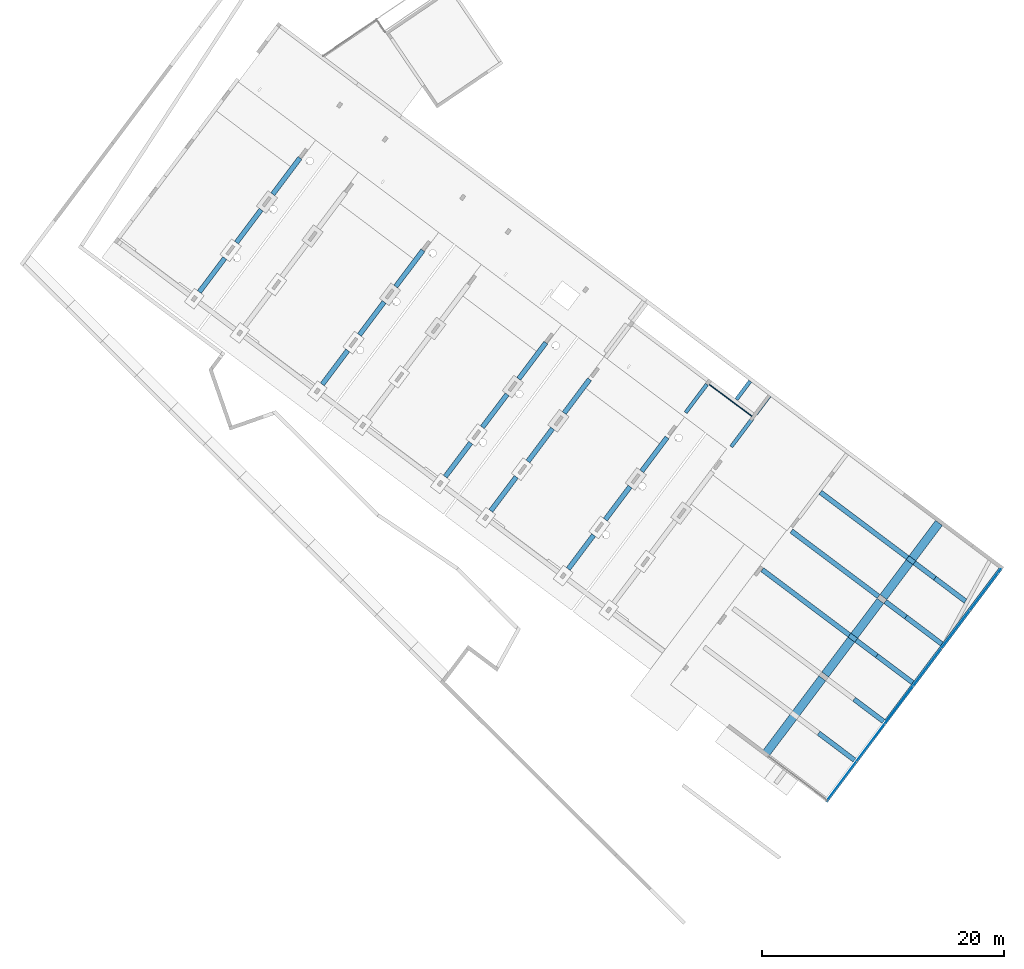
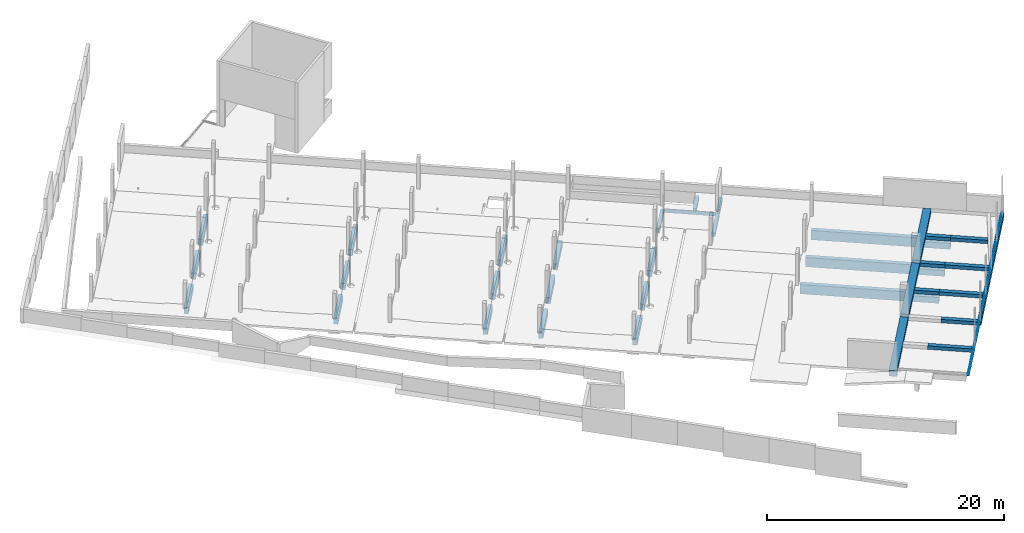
# One storey, part 18 of 24: 21 beams.
"""IFC2X3 building model written with IfcOpenShell, lengths in metres."""

from ifc_helpers import new_model, entity, si_unit, converted_unit, derived_unit, direction, frame, frame_2d, origin, place, context, subcontext, project, spatial, polyline, rectangle, outline, extrude, clip, halfspace, source, transform, mapped, material, material_list, type_object, type_shapes, element, save


model = new_model("IFC2X3")

# Units and contexts
model_context = context("Model", 3, precision=1e-05, world=origin(), true_north=direction((6.123031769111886e-17, 1.0)))
body_context = subcontext(model_context, "Body", "Model", "MODEL_VIEW")
ifc_project = project(units=[si_unit("LENGTHUNIT", "METRE"), si_unit("AREAUNIT", "SQUARE_METRE"), si_unit("VOLUMEUNIT", "CUBIC_METRE"), converted_unit("PLANEANGLEUNIT", "DEGREE", entity("IfcRatioMeasure", 0.017453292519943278), si_unit("PLANEANGLEUNIT", "RADIAN"), dimensions=[0, 0, 0, 0, 0, 0, 0]), si_unit("MASSUNIT", "GRAM", prefix="KILO"), derived_unit("MASSDENSITYUNIT", [(si_unit("MASSUNIT", "GRAM", prefix="KILO"), 1), (si_unit("LENGTHUNIT", "METRE"), -3)]), derived_unit("IONCONCENTRATIONUNIT", [(si_unit("MASSUNIT", "GRAM", prefix="KILO"), 1), (si_unit("LENGTHUNIT", "METRE"), -3)]), derived_unit("MOMENTOFINERTIAUNIT", [(si_unit("LENGTHUNIT", "METRE"), 4)]), si_unit("TIMEUNIT", "SECOND"), si_unit("FREQUENCYUNIT", "HERTZ"), si_unit("THERMODYNAMICTEMPERATUREUNIT", "DEGREE_CELSIUS"), derived_unit("THERMALTRANSMITTANCEUNIT", [(si_unit("MASSUNIT", "GRAM", prefix="KILO"), 1), (si_unit("THERMODYNAMICTEMPERATUREUNIT", "KELVIN"), -1), (si_unit("TIMEUNIT", "SECOND"), -3)]), derived_unit("THERMALCONDUCTANCEUNIT", [(si_unit("MASSUNIT", "GRAM", prefix="KILO"), 1), (si_unit("THERMODYNAMICTEMPERATUREUNIT", "KELVIN"), -1), (si_unit("TIMEUNIT", "SECOND"), -3), (si_unit("LENGTHUNIT", "METRE"), 1)]), derived_unit("VOLUMETRICFLOWRATEUNIT", [(si_unit("LENGTHUNIT", "METRE"), 3), (si_unit("TIMEUNIT", "SECOND"), -1)]), derived_unit("MASSFLOWRATEUNIT", [(si_unit("MASSUNIT", "GRAM", prefix="KILO"), 1), (si_unit("TIMEUNIT", "SECOND"), -1)]), derived_unit("ROTATIONALFREQUENCYUNIT", [(si_unit("TIMEUNIT", "SECOND"), -1)]), si_unit("ELECTRICCURRENTUNIT", "AMPERE"), si_unit("ELECTRICVOLTAGEUNIT", "VOLT"), si_unit("POWERUNIT", "WATT"), si_unit("FORCEUNIT", "NEWTON", prefix="KILO"), si_unit("ILLUMINANCEUNIT", "LUX"), si_unit("LUMINOUSFLUXUNIT", "LUMEN"), si_unit("LUMINOUSINTENSITYUNIT", "CANDELA"), derived_unit("USERDEFINED", [(si_unit("MASSUNIT", "GRAM", prefix="KILO"), -1), (si_unit("LENGTHUNIT", "METRE"), -2), (si_unit("TIMEUNIT", "SECOND"), 3), (si_unit("LUMINOUSFLUXUNIT", "LUMEN"), 1)]), derived_unit("USERDEFINED", [(si_unit("MASSUNIT", "GRAM", prefix="KILO"), 1), (si_unit("TIMEUNIT", "SECOND"), -3), (si_unit("LENGTHUNIT", "METRE"), 3), (si_unit("ELECTRICCURRENTUNIT", "AMPERE"), -2)]), derived_unit("SOUNDPOWERUNIT", [(si_unit("MASSUNIT", "GRAM", prefix="KILO"), 1), (si_unit("TIMEUNIT", "SECOND"), -3), (si_unit("LENGTHUNIT", "METRE"), 2)]), derived_unit("SOUNDPRESSUREUNIT", [(si_unit("MASSUNIT", "GRAM", prefix="KILO"), 1), (si_unit("LENGTHUNIT", "METRE"), -1), (si_unit("TIMEUNIT", "SECOND"), -2)]), derived_unit("LINEARVELOCITYUNIT", [(si_unit("LENGTHUNIT", "METRE"), 1), (si_unit("TIMEUNIT", "SECOND"), -1)]), si_unit("PRESSUREUNIT", "PASCAL"), derived_unit("USERDEFINED", [(si_unit("MASSUNIT", "GRAM", prefix="KILO"), 1), (si_unit("LENGTHUNIT", "METRE"), -2), (si_unit("TIMEUNIT", "SECOND"), -2)]), derived_unit("LINEARFORCEUNIT", [(si_unit("MASSUNIT", "GRAM", prefix="KILO"), 1), (si_unit("TIMEUNIT", "SECOND"), -2)]), derived_unit("PLANARFORCEUNIT", [(si_unit("MASSUNIT", "GRAM", prefix="KILO"), 1), (si_unit("LENGTHUNIT", "METRE"), -1), (si_unit("TIMEUNIT", "SECOND"), -2)]), derived_unit("SPECIFICHEATCAPACITYUNIT", [(si_unit("THERMODYNAMICTEMPERATUREUNIT", "KELVIN"), -1), (si_unit("LENGTHUNIT", "METRE"), 2), (si_unit("TIMEUNIT", "SECOND"), -2)]), derived_unit("HEATINGVALUEUNIT", [(si_unit("LENGTHUNIT", "METRE"), 2), (si_unit("TIMEUNIT", "SECOND"), -2)]), derived_unit("VAPORPERMEABILITYUNIT", [(si_unit("LENGTHUNIT", "METRE"), -1), (si_unit("TIMEUNIT", "SECOND"), 1)]), derived_unit("DYNAMICVISCOSITYUNIT", [(si_unit("MASSUNIT", "GRAM", prefix="KILO"), 1), (si_unit("TIMEUNIT", "SECOND"), -1), (si_unit("LENGTHUNIT", "METRE"), -1)]), derived_unit("THERMALEXPANSIONCOEFFICIENTUNIT", [(si_unit("THERMODYNAMICTEMPERATUREUNIT", "KELVIN"), -1)]), derived_unit("MODULUSOFELASTICITYUNIT", [(si_unit("MASSUNIT", "GRAM", prefix="KILO"), 1), (si_unit("LENGTHUNIT", "METRE"), -1), (si_unit("TIMEUNIT", "SECOND"), -2)]), derived_unit("ISOTHERMALMOISTURECAPACITYUNIT", [(si_unit("LENGTHUNIT", "METRE"), 3), (si_unit("MASSUNIT", "GRAM", prefix="KILO"), -1)]), derived_unit("MOISTUREDIFFUSIVITYUNIT", [(si_unit("TIMEUNIT", "SECOND"), -1), (si_unit("LENGTHUNIT", "METRE"), 2)])], contexts=[model_context])

# Site, building, storey
site_placement = place(None, origin())
site = spatial("IfcSite", under=ifc_project, at=site_placement, Name="Default", CompositionType="ELEMENT")
building_placement = place(site_placement, frame((0.0, 0.0, 235.0), z_axis=(0.0, 0.0, 1.0), x_axis=(-0.7996477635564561, 0.6004693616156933, 0.0)))
building = spatial("IfcBuilding", under=site, at=building_placement, CompositionType="ELEMENT")
storey_placement = place(building_placement, origin())
storey = spatial("IfcBuildingStorey", under=building, at=storey_placement, Name="P0- Escola", CompositionType="ELEMENT", Elevation=0.0)

# Beams
ifc_material_1 = material(Name="_Formigó- T1- STR")
beam_type_1 = type_object("IfcBeamType", Name="STR- V- Formigó- Rectangular- T1:30x59 cm", PredefinedType="NOTDEFINED")
beam_1_placement = place(storey_placement, frame((-0.04416658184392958, -42.190191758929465, -0.2), z_axis=(0.0, 0.0, 1.0), x_axis=(0.0, 1.0, 0.0)))
element("IfcBeam", 1, at=beam_1_placement, inside=storey, type_object=beam_type_1, material=ifc_material_1, Name="STR- V- Formigó- Rectangular- T1:30x59 cm", ObjectType="STR- V- Formigó- Rectangular- T1:30x59 cm", context=body_context, shape_type="SweptSolid", body=[
    extrude(rectangle(XDim=0.5899999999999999, YDim=0.3000000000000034, at=frame_2d((2.7755575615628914e-17, -2.7755575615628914e-17), x_axis=(1.0, 0.0))), frame((-0.1500000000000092, 0.0, -0.29500000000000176), z_axis=(1.0, 0.0, 0.0), x_axis=(0.0, 0.0, -1.0)), (0.0, 0.0, 1.0), 16.000202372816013),
])
beam_type_2 = type_object("IfcBeamType", Name="STR- V- Formigó- Rectangular- T1:70x59 cm", PredefinedType="BEAM", material=ifc_material_1)
shared_shape_1 = source(origin(), body_context, "Body", "SweptSolid", [
    extrude(outline(polyline([(-4.913636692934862, 0.11545454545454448), (-4.913636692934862, -0.23454545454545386), (-1.3136366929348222, -0.23454545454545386), (-0.9136366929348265, -0.23454545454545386), (2.736363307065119, -0.23454545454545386), (3.0363651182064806, -0.23454545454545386), (3.0363651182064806, 0.35545454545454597), (2.7363633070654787, 0.35545454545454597), (2.7363633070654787, 0.11545454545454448), (-0.9136366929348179, 0.11545454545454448), (-1.3136366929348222, 0.11545454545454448), (-4.913636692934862, 0.11545454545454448)])), frame((0.0, 20.963636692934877, 0.35545454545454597), z_axis=(-1.0, 0.0, 0.0), x_axis=(0.0, 1.0, 0.0)), (0.0, 0.0, -1.0), 0.7000000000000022),
    extrude(rectangle(XDim=0.3499999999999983, YDim=7.650000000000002, at=frame_2d((-4.163336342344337e-17, 0.01250000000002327), x_axis=(1.0, 0.0))), frame((0.0, 3.8375000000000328, 0.4150000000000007), z_axis=(1.0, 0.0, 0.0), x_axis=(0.0, 0.0, 1.0)), (0.0, 0.0, 1.0), 0.7000000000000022),
    extrude(rectangle(XDim=0.3499999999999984, YDim=7.6000000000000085, at=frame_2d((2.8199664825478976e-14, -6.938893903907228e-17), x_axis=(0.0, 1.0))), frame((0.0, 11.850000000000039, 0.4150000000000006), z_axis=(1.0, 0.0, 0.0), x_axis=(0.0, -1.0, 0.0)), (0.0, 0.0, 1.0), 0.7000000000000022),
])
type_shapes(beam_type_2, [shared_shape_1])
beam_2_placement = place(storey_placement, frame((5.945147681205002, -42.040191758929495, -0.7900000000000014)))
element("IfcBeam", 2, at=beam_2_placement, inside=storey, type_object=beam_type_2, material=ifc_material_1, Name="STR- V- Formigó- Rectangular- T1:70x59 cm", ObjectType="STR- V- Formigó- Rectangular- T1:70x59 cm", context=body_context, shape_type="MappedRepresentation", body=[
    mapped(shared_shape_1, transform((0.0, 0.0, 0.0), scale=1.0)),
])
beam_type_3 = type_object("IfcBeamType", Name="STR- V- Formigó- Rectangular- T1:30x70 cm", PredefinedType="BEAM", material=ifc_material_1)
shared_shape_2 = source(origin(), body_context, "Body", "SweptSolid", [
    extrude(rectangle(XDim=0.3800000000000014, YDim=0.30000000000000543, at=frame_2d((2.1649348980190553e-15, 2.7755575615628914e-17), x_axis=(0.0, 1.0))), frame((23.79514768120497, -39.69019175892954, -0.7100000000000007), z_axis=(0.0, 1.0, 0.0), x_axis=(-1.0, 0.0, 0.0)), (0.0, 0.0, 1.0), 2.925000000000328),
    extrude(rectangle(XDim=0.3800000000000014, YDim=0.30000000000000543, at=frame_2d((-2.1649348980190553e-15, 0.0), x_axis=(0.0, 1.0))), frame((23.79514768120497, -42.03419175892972, -0.7100000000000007), z_axis=(0.0, 1.0, 0.0), x_axis=(-1.0, 0.0, 0.0)), (0.0, 0.0, 1.0), 1.8940000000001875),
])
type_shapes(beam_type_3, [shared_shape_2])
beam_3_placement = place(storey_placement, origin())
element("IfcBeam", 3, at=beam_3_placement, inside=storey, type_object=beam_type_3, material=ifc_material_1, Name="STR- V- Formigó- Rectangular- T1:30x70 cm", ObjectType="STR- V- Formigó- Rectangular- T1:30x70 cm", context=body_context, shape_type="MappedRepresentation", body=[
    mapped(shared_shape_2, transform((0.0, 0.0, 0.0), scale=1.0)),
])
beam_4_placement = place(storey_placement, frame((28.495147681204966, -39.91519175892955, -0.19999999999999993), z_axis=(0.0, 0.0, 1.0), x_axis=(0.0, 1.0, 0.0)))
element("IfcBeam", 4, at=beam_4_placement, inside=storey, type_object=beam_type_3, material=ifc_material_1, Name="STR- V- Formigó- Rectangular- T1:30x70 cm", ObjectType="STR- V- Formigó- Rectangular- T1:30x70 cm", context=body_context, shape_type="SweptSolid", body=[
    extrude(rectangle(XDim=0.38000000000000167, YDim=0.30000000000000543, at=frame_2d((-2.7755575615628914e-17, -2.1649348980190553e-15), x_axis=(1.0, 0.0))), frame((0.22500000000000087, 0.0, -0.5100000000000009), z_axis=(1.0, 0.0, 0.0), x_axis=(0.0, 0.0, -1.0)), (0.0, 0.0, 1.0), 2.925000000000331),
])
beam_5_placement = place(storey_placement, frame((25.795147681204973, -42.18419175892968, -0.2), z_axis=(0.0, 0.0, 1.0), x_axis=(0.0, 1.0, 0.0)))
element("IfcBeam", 5, at=beam_5_placement, inside=storey, type_object=beam_type_3, material=ifc_material_1, Name="STR- V- Formigó- Rectangular- T1:30x70 cm", ObjectType="STR- V- Formigó- Rectangular- T1:30x70 cm", context=body_context, shape_type="SweptSolid", body=[
    extrude(rectangle(XDim=0.38000000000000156, YDim=0.30000000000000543, at=frame_2d((4.163336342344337e-17, 2.1649348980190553e-15), x_axis=(1.0, 0.0))), frame((0.14999999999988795, 0.0, -0.5100000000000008), z_axis=(1.0, 0.0, 0.0), x_axis=(0.0, 0.0, -1.0)), (0.0, 0.0, 1.0), 1.8940000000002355),
])
beam_6_placement = place(storey_placement, frame((23.795147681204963, -39.91519175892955, -0.2)))
element("IfcBeam", 6, at=beam_6_placement, inside=storey, type_object=beam_type_3, material=ifc_material_1, Name="STR- V- Formigó- Rectangular- T1:30x70 cm", ObjectType="STR- V- Formigó- Rectangular- T1:30x70 cm", context=body_context, shape_type="SweptSolid", body=[
    extrude(rectangle(XDim=0.38000000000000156, YDim=0.07500000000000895, at=frame_2d((4.163336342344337e-17, -4.3298697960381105e-15), x_axis=(1.0, 0.0))), frame((0.14999999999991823, 0.11250000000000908, -0.5100000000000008), z_axis=(1.0, 0.0, 0.0), x_axis=(0.0, 0.0, -1.0)), (0.0, 0.0, 1.0), 4.400000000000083),
])
beam_type_4 = type_object("IfcBeamType", Name="STR- V- Formigó- Rectangular- T1:40x59 cm", PredefinedType="NOTDEFINED")
beam_7_placement = place(storey_placement, frame((5.945147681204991, -26.190191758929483, -0.19999999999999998), z_axis=(0.0, 0.0, 1.0), x_axis=(-1.0, 0.0, 0.0)))
element("IfcBeam", 7, at=beam_7_placement, inside=storey, type_object=beam_type_4, material=ifc_material_1, Name="STR- V- Formigó- Rectangular- T1:40x59 cm", ObjectType="STR- V- Formigó- Rectangular- T1:40x59 cm", context=body_context, shape_type="SweptSolid", body=[
    extrude(rectangle(XDim=0.34999999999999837, YDim=0.40000000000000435, at=frame_2d((2.7755575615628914e-17, 8.659739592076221e-15), x_axis=(1.0, 0.0))), frame((2.780400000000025, 0.0, -0.17500000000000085), z_axis=(1.0, 0.0, 0.0), x_axis=(0.0, 0.0, -1.0)), (0.0, 0.0, 1.0), 3.0589142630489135),
])
beam_8_placement = place(storey_placement, frame((6.295147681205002, -22.190191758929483, -0.2), z_axis=(0.0, 0.0, 1.0), x_axis=(-1.0, 0.0, 0.0)))
element("IfcBeam", 8, at=beam_8_placement, inside=storey, type_object=beam_type_4, material=ifc_material_1, Name="STR- V- Formigó- Rectangular- T1:40x59 cm", ObjectType="STR- V- Formigó- Rectangular- T1:40x59 cm", context=body_context, shape_type="SweptSolid", body=[
    extrude(rectangle(XDim=0.3499999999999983, YDim=0.40000000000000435, at=frame_2d((4.163336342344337e-17, 8.659739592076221e-15), x_axis=(1.0, 0.0))), frame((2.4754000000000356, 0.0, -0.17500000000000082), z_axis=(1.0, 0.0, 0.0), x_axis=(0.0, 0.0, -1.0)), (0.0, 0.0, 1.0), 3.7139142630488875),
])
beam_9_placement = place(storey_placement, frame((6.295147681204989, -30.190191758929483, -0.2), z_axis=(0.0, 0.0, 1.0), x_axis=(-1.0, 0.0, 0.0)))
element("IfcBeam", 9, at=beam_9_placement, inside=storey, type_object=beam_type_4, material=ifc_material_1, Name="STR- V- Formigó- Rectangular- T1:40x59 cm", ObjectType="STR- V- Formigó- Rectangular- T1:40x59 cm", context=body_context, shape_type="SweptSolid", body=[
    extrude(rectangle(XDim=0.3499999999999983, YDim=0.40000000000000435, at=frame_2d((4.163336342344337e-17, 4.3298697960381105e-15), x_axis=(1.0, 0.0))), frame((2.4750500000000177, 0.0, -0.17500000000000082), z_axis=(1.0, 0.0, 0.0), x_axis=(0.0, 0.0, -1.0)), (0.0, 0.0, 1.0), 3.71426426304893),
])
beam_10_placement = place(storey_placement, frame((5.945147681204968, -34.19019175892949, -0.19999999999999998), z_axis=(0.0, 0.0, 1.0), x_axis=(-1.0, 0.0, 0.0)))
element("IfcBeam", 10, at=beam_10_placement, inside=storey, type_object=beam_type_4, material=ifc_material_1, Name="STR- V- Formigó- Rectangular- T1:40x59 cm", ObjectType="STR- V- Formigó- Rectangular- T1:40x59 cm", context=body_context, shape_type="SweptSolid", body=[
    extrude(rectangle(XDim=0.34999999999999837, YDim=0.40000000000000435, at=frame_2d((2.7755575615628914e-17, 1.2989609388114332e-14), x_axis=(1.0, 0.0))), frame((2.125400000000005, 0.0, -0.17500000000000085), z_axis=(1.0, 0.0, 0.0), x_axis=(0.0, 0.0, -1.0)), (0.0, 0.0, 1.0), 3.7139142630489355),
])
beam_11_placement = place(storey_placement, frame((6.295147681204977, -38.19019175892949, -0.2), z_axis=(0.0, 0.0, 1.0), x_axis=(-1.0, 0.0, 0.0)))
element("IfcBeam", 11, at=beam_11_placement, inside=storey, type_object=beam_type_4, material=ifc_material_1, Name="STR- V- Formigó- Rectangular- T1:40x59 cm", ObjectType="STR- V- Formigó- Rectangular- T1:40x59 cm", context=body_context, shape_type="SweptSolid", body=[
    clip(extrude(rectangle(XDim=0.3499999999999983, YDim=0.40000000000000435, at=frame_2d((4.163336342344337e-17, 1.0824674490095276e-14), x_axis=(1.0, 0.0))), frame((2.475400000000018, 0.0, -0.17500000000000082), z_axis=(1.0, 0.0, 0.0), x_axis=(0.0, 0.0, -1.0)), (0.0, 0.0, 1.0), 3.1877565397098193), halfspace(frame((5.892409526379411, -1.7685615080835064, 0.0), z_axis=(0.9894874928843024, 0.14461846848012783, 0.0), x_axis=(-0.14461846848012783, 0.9894874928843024, 0.0)), False)),
])
beam_type_5 = type_object("IfcBeamType", Name="STR- V- Formigó- Rectangular- T1:40x120 cm", PredefinedType="BEAM", material=ifc_material_1)
shared_shape_3 = source(origin(), body_context, "Body", "SweptSolid", [
    extrude(rectangle(XDim=0.34999999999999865, YDim=0.4, at=frame_2d((0.0, 2.1649348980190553e-15), x_axis=(1.0, 0.0))), frame((0.0, 0.20000000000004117, 1.0250000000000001), z_axis=(1.0, 0.0, 0.0), x_axis=(0.0, 0.0, -1.0)), (0.0, 0.0, 1.0), 2.1250500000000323),
    extrude(outline(polyline([(0.07428571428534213, -1.6714285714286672), (0.4242857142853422, -1.6714285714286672), (0.42428571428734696, 7.328571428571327), (-0.5357142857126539, 7.328571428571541), (-0.5357142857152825, -4.471428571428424), (0.07428571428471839, -4.471428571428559), (0.0742857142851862, -2.371428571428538), (0.07428571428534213, -1.6714285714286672)])), frame((4.496478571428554, 0.0, 0.5357142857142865), z_axis=(0.0, 1.0, 0.0), x_axis=(0.0, 0.0, 1.0)), (0.0, 0.0, 1.0), 0.40000000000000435),
])
type_shapes(beam_type_5, [shared_shape_3])
beam_12_placement = place(storey_placement, frame((3.820097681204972, -30.390191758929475, -1.400000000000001)))
element("IfcBeam", 12, at=beam_12_placement, inside=storey, type_object=beam_type_5, material=ifc_material_1, Name="STR- V- Formigó- Rectangular- T1:40x120 cm", ObjectType="STR- V- Formigó- Rectangular- T1:40x120 cm", context=body_context, shape_type="MappedRepresentation", body=[
    mapped(shared_shape_3, transform((0.0, 0.0, 0.0), scale=1.0)),
])
beam_type_6 = type_object("IfcBeamType", Name="STR- V- Formigó- Rectangular- T1:40x120 cm", PredefinedType="BEAM", material=ifc_material_1)
shared_shape_4 = source(origin(), body_context, "Body", "SweptSolid", [
    extrude(outline(polyline([(0.03499999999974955, -1.4625000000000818), (0.27499999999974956, -1.4625000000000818), (0.3849999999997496, -1.4625000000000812), (0.38500000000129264, 7.537499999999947), (-0.5749999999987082, 7.537500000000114), (-0.5750000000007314, -4.262499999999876), (0.03499999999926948, -4.26249999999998), (0.034999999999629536, -2.162499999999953), (0.03499999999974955, -1.4625000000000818)])), frame((4.287899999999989, 0.0, 0.5750000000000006), z_axis=(0.0, 1.0, 0.0), x_axis=(0.0, 0.0, 1.0)), (0.0, 0.0, 1.0), 0.40000000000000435),
    extrude(rectangle(XDim=0.34999999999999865, YDim=0.4, at=frame_2d((0.0, -2.1649348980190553e-15), x_axis=(1.0, 0.0))), frame((0.0, 0.20000000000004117, 1.0250000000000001), z_axis=(1.0, 0.0, 0.0), x_axis=(0.0, 0.0, -1.0)), (0.0, 0.0, 1.0), 2.125400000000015),
])
type_shapes(beam_type_6, [shared_shape_4])
beam_13_placement = place(storey_placement, frame((3.8197476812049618, -34.390191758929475, -1.400000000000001)))
element("IfcBeam", 13, at=beam_13_placement, inside=storey, type_object=beam_type_6, material=ifc_material_1, Name="STR- V- Formigó- Rectangular- T1:40x120 cm", ObjectType="STR- V- Formigó- Rectangular- T1:40x120 cm", context=body_context, shape_type="MappedRepresentation", body=[
    mapped(shared_shape_4, transform((0.0, 0.0, 0.0), scale=1.0)),
])
beam_type_7 = type_object("IfcBeamType", Name="STR- V- Formigó- Rectangular- T1:40x120 cm", PredefinedType="BEAM", material=ifc_material_1)
shared_shape_5 = source(origin(), body_context, "Body", "SweptSolid", [
    extrude(outline(polyline([(0.07428571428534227, -1.6714285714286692), (0.42428571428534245, -1.6714285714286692), (0.42428571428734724, 7.328571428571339), (-0.5357142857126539, 7.3285714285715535), (-0.5357142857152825, -4.471428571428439), (0.07428571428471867, -4.471428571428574), (0.07428571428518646, -2.3714285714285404), (0.07428571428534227, -1.6714285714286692)])), frame((4.49682857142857, 0.0, 0.5357142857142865), z_axis=(0.0, 1.0, 0.0), x_axis=(0.0, 0.0, 1.0)), (0.0, 0.0, 1.0), 0.40000000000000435),
    extrude(rectangle(XDim=0.3499999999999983, YDim=0.4, at=frame_2d((6.938893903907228e-17, 2.1649348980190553e-15), x_axis=(1.0, 0.0))), frame((0.0, 0.20000000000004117, 1.0250000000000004), z_axis=(1.0, 0.0, 0.0), x_axis=(0.0, 0.0, -1.0)), (0.0, 0.0, 1.0), 2.1254000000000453),
])
type_shapes(beam_type_7, [shared_shape_5])
beam_14_placement = place(storey_placement, frame((3.8197476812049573, -38.390191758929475, -1.4000000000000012)))
element("IfcBeam", 14, at=beam_14_placement, inside=storey, type_object=beam_type_7, material=ifc_material_1, Name="STR- V- Formigó- Rectangular- T1:40x120 cm", ObjectType="STR- V- Formigó- Rectangular- T1:40x120 cm", context=body_context, shape_type="MappedRepresentation", body=[
    mapped(shared_shape_5, transform((0.0, 0.0, 0.0), scale=1.0)),
])
ifc_material_2 = material(Name="_Formigó Pobre- T1- STR")
ifc_material_list = material_list([ifc_material_1, ifc_material_2])
beam_type_8 = type_object("IfcBeamType", Name="STR- R- Formigó- Rectangular- T1:40x60 cm", PredefinedType="BEAM", material=ifc_material_1)
shared_shape_6 = source(origin(), body_context, "Body", "SweptSolid", [
    extrude(rectangle(XDim=0.6000000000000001, YDim=0.40000000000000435, at=frame_2d((4.3298697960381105e-15, 5.551115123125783e-17), x_axis=(0.0, 1.0))), frame((36.495147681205, -30.715191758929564, -0.8700000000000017), z_axis=(0.0, -1.0, 0.0), x_axis=(-1.0, 0.0, 0.0)), (0.0, 0.0, 1.0), 3.487700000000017),
    extrude(rectangle(XDim=0.6000000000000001, YDim=0.40000000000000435, at=frame_2d((4.3298697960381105e-15, 5.551115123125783e-17), x_axis=(0.0, 1.0))), frame((36.495147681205, -20.615191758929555, -0.8700000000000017), z_axis=(0.0, -1.0, 0.0), x_axis=(-1.0, 0.0, 0.0)), (0.0, 0.0, 1.0), 3.499999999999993),
    extrude(rectangle(XDim=0.6000000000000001, YDim=0.40000000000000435, at=frame_2d((4.3298697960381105e-15, 5.551115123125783e-17), x_axis=(0.0, 1.0))), frame((36.495147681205, -25.715191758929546, -0.8700000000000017), z_axis=(0.0, -1.0, 0.0), x_axis=(-1.0, 0.0, 0.0)), (0.0, 0.0, 1.0), 3.40000000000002),
    extrude(rectangle(XDim=0.04999999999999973, YDim=0.4, at=frame_2d((0.0, -1.3530843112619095e-16), x_axis=(0.0, 1.0))), frame((36.495147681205, -30.715191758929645, -1.195000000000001), z_axis=(0.0, -1.0, 0.0), x_axis=(-1.0, 0.0, 0.0)), (0.0, 0.0, 1.0), 3.487699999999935),
    extrude(rectangle(XDim=0.04999999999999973, YDim=0.3999999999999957, at=frame_2d((0.0, -1.3530843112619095e-16), x_axis=(0.0, 1.0))), frame((36.495147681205, -20.615191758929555, -1.195000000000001), z_axis=(0.0, -1.0, 0.0), x_axis=(-1.0, 0.0, 0.0)), (0.0, 0.0, 1.0), 3.499999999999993),
    extrude(rectangle(XDim=0.04999999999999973, YDim=0.4, at=frame_2d((0.0, -1.3530843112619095e-16), x_axis=(0.0, 1.0))), frame((36.495147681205, -25.715191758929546, -1.195000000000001), z_axis=(0.0, -1.0, 0.0), x_axis=(-1.0, 0.0, 0.0)), (0.0, 0.0, 1.0), 3.40000000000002),
])
type_shapes(beam_type_8, [shared_shape_6])
beam_15_placement = place(storey_placement, origin())
element("IfcBeam", 15, at=beam_15_placement, inside=storey, type_object=beam_type_8, material=ifc_material_list, Name="STR- R- Formigó- Rectangular- T1:40x60 cm", ObjectType="STR- R- Formigó- Rectangular- T1:40x60 cm", context=body_context, shape_type="MappedRepresentation", body=[
    mapped(shared_shape_6, transform((0.0, 0.0, 0.0), scale=1.0)),
])
beam_type_9 = type_object("IfcBeamType", Name="STR- R- Formigó- Rectangular- T1:40x60 cm", PredefinedType="BEAM", material=ifc_material_1)
shared_shape_7 = source(origin(), body_context, "Body", "SweptSolid", [
    extrude(rectangle(XDim=0.6000000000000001, YDim=0.40000000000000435, at=frame_2d((-4.3298697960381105e-15, 0.0), x_axis=(0.0, 1.0))), frame((28.49514768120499, -30.715191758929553, -0.8700000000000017), z_axis=(0.0, -1.0, 0.0), x_axis=(-1.0, 0.0, 0.0)), (0.0, 0.0, 1.0), 3.4877000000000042),
    extrude(rectangle(XDim=0.6000000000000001, YDim=0.40000000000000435, at=frame_2d((-4.3298697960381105e-15, -8.326672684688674e-17), x_axis=(0.0, 1.0))), frame((28.49514768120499, -20.615191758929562, -0.8700000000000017), z_axis=(0.0, -1.0, 0.0), x_axis=(-1.0, 0.0, 0.0)), (0.0, 0.0, 1.0), 3.499999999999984),
    extrude(rectangle(XDim=0.6000000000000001, YDim=0.40000000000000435, at=frame_2d((-4.3298697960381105e-15, -8.326672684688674e-17), x_axis=(0.0, 1.0))), frame((28.49514768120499, -25.715191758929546, -0.8700000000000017), z_axis=(0.0, -1.0, 0.0), x_axis=(-1.0, 0.0, 0.0)), (0.0, 0.0, 1.0), 3.4000000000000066),
    extrude(rectangle(XDim=0.04999999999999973, YDim=0.4, at=frame_2d((0.0, -1.3530843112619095e-16), x_axis=(0.0, 1.0))), frame((28.495147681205, -30.715191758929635, -1.195000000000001), z_axis=(0.0, -1.0, 0.0), x_axis=(-1.0, 0.0, 0.0)), (0.0, 0.0, 1.0), 3.4876999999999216),
    extrude(rectangle(XDim=0.04999999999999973, YDim=0.4, at=frame_2d((0.0, -1.3530843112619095e-16), x_axis=(0.0, 1.0))), frame((28.495147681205, -25.715191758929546, -1.195000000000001), z_axis=(0.0, -1.0, 0.0), x_axis=(-1.0, 0.0, 0.0)), (0.0, 0.0, 1.0), 3.400000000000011),
    extrude(rectangle(XDim=0.04999999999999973, YDim=0.3999999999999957, at=frame_2d((0.0, -1.3530843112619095e-16), x_axis=(0.0, 1.0))), frame((28.495147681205, -20.615191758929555, -1.195000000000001), z_axis=(0.0, -1.0, 0.0), x_axis=(-1.0, 0.0, 0.0)), (0.0, 0.0, 1.0), 3.499999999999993),
])
type_shapes(beam_type_9, [shared_shape_7])
beam_16_placement = place(storey_placement, origin())
element("IfcBeam", 16, at=beam_16_placement, inside=storey, type_object=beam_type_9, material=ifc_material_list, Name="STR- R- Formigó- Rectangular- T1:40x60 cm", ObjectType="STR- R- Formigó- Rectangular- T1:40x60 cm", context=body_context, shape_type="MappedRepresentation", body=[
    mapped(shared_shape_7, transform((0.0, 0.0, 0.0), scale=1.0)),
])
beam_type_10 = type_object("IfcBeamType", Name="STR- R- Formigó- Rectangular- T1:40x60 cm", PredefinedType="BEAM", material=ifc_material_1)
shared_shape_8 = source(origin(), body_context, "Body", "SweptSolid", [
    extrude(rectangle(XDim=0.6000000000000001, YDim=0.40000000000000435, at=frame_2d((-4.3298697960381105e-15, -8.326672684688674e-17), x_axis=(0.0, 1.0))), frame((66.59514768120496, -30.715191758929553, -0.8700000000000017), z_axis=(0.0, -1.0, 0.0), x_axis=(-1.0, 0.0, 0.0)), (0.0, 0.0, 1.0), 3.7398500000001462),
    extrude(rectangle(XDim=0.5999999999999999, YDim=0.40000000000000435, at=frame_2d((-4.3298697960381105e-15, 1.3877787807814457e-16), x_axis=(0.0, 1.0))), frame((66.59514768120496, -20.615191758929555, -0.8700000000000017), z_axis=(0.0, -1.0, 0.0), x_axis=(-1.0, 0.0, 0.0)), (0.0, 0.0, 1.0), 3.499999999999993),
    extrude(rectangle(XDim=0.5999999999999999, YDim=0.40000000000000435, at=frame_2d((-4.3298697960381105e-15, 5.551115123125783e-17), x_axis=(0.0, 1.0))), frame((66.59514768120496, -25.715191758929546, -0.8700000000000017), z_axis=(0.0, -1.0, 0.0), x_axis=(-1.0, 0.0, 0.0)), (0.0, 0.0, 1.0), 3.4000000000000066),
    extrude(rectangle(XDim=0.04999999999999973, YDim=0.3999999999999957, at=frame_2d((8.659739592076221e-15, -1.3530843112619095e-16), x_axis=(0.0, 1.0))), frame((66.59514768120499, -30.715191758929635, -1.195000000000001), z_axis=(0.0, -1.0, 0.0), x_axis=(-1.0, 0.0, 0.0)), (0.0, 0.0, 1.0), 3.7398500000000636),
    extrude(rectangle(XDim=0.04999999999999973, YDim=0.3999999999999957, at=frame_2d((8.659739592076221e-15, -1.3530843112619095e-16), x_axis=(0.0, 1.0))), frame((66.59514768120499, -20.615191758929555, -1.195000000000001), z_axis=(0.0, -1.0, 0.0), x_axis=(-1.0, 0.0, 0.0)), (0.0, 0.0, 1.0), 3.499999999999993),
    extrude(rectangle(XDim=0.04999999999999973, YDim=0.3999999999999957, at=frame_2d((8.659739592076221e-15, -1.3530843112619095e-16), x_axis=(0.0, 1.0))), frame((66.59514768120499, -25.715191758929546, -1.195000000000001), z_axis=(0.0, -1.0, 0.0), x_axis=(-1.0, 0.0, 0.0)), (0.0, 0.0, 1.0), 3.400000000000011),
])
type_shapes(beam_type_10, [shared_shape_8])
beam_17_placement = place(storey_placement, origin())
element("IfcBeam", 17, at=beam_17_placement, inside=storey, type_object=beam_type_10, material=ifc_material_list, Name="STR- R- Formigó- Rectangular- T1:40x60 cm", ObjectType="STR- R- Formigó- Rectangular- T1:40x60 cm", context=body_context, shape_type="MappedRepresentation", body=[
    mapped(shared_shape_8, transform((0.0, 0.0, 0.0), scale=1.0)),
])
beam_type_11 = type_object("IfcBeamType", Name="STR- R- Formigó- Rectangular- T1:40x60 cm", PredefinedType="BEAM", material=ifc_material_1)
shared_shape_9 = source(origin(), body_context, "Body", "SweptSolid", [
    extrude(rectangle(XDim=0.6, YDim=0.40000000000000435, at=frame_2d((4.3298697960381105e-15, -2.7755575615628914e-17), x_axis=(0.0, 1.0))), frame((53.89514768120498, -30.715191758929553, -0.8700000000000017), z_axis=(0.0, -1.0, 0.0), x_axis=(-1.0, 0.0, 0.0)), (0.0, 0.0, 1.0), 3.7398500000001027),
    extrude(rectangle(XDim=0.5999999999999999, YDim=0.40000000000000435, at=frame_2d((4.3298697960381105e-15, 0.0), x_axis=(0.0, 1.0))), frame((53.89514768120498, -20.615191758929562, -0.8700000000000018), z_axis=(0.0, -1.0, 0.0), x_axis=(-1.0, 0.0, 0.0)), (0.0, 0.0, 1.0), 3.499999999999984),
    extrude(rectangle(XDim=0.5999999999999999, YDim=0.40000000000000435, at=frame_2d((4.3298697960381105e-15, 0.0), x_axis=(0.0, 1.0))), frame((53.89514768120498, -25.71519175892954, -0.8700000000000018), z_axis=(0.0, -1.0, 0.0), x_axis=(-1.0, 0.0, 0.0)), (0.0, 0.0, 1.0), 3.4000000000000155),
    extrude(rectangle(XDim=0.04999999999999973, YDim=0.3999999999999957, at=frame_2d((0.0, -1.3530843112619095e-16), x_axis=(0.0, 1.0))), frame((53.89514768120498, -30.715191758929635, -1.195000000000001), z_axis=(0.0, -1.0, 0.0), x_axis=(-1.0, 0.0, 0.0)), (0.0, 0.0, 1.0), 3.7398500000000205),
    extrude(rectangle(XDim=0.04999999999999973, YDim=0.3999999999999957, at=frame_2d((0.0, -1.3530843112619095e-16), x_axis=(0.0, 1.0))), frame((53.89514768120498, -20.615191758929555, -1.195000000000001), z_axis=(0.0, -1.0, 0.0), x_axis=(-1.0, 0.0, 0.0)), (0.0, 0.0, 1.0), 3.499999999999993),
    extrude(rectangle(XDim=0.04999999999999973, YDim=0.3999999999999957, at=frame_2d((0.0, -1.3530843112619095e-16), x_axis=(0.0, 1.0))), frame((53.89514768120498, -25.715191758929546, -1.195000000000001), z_axis=(0.0, -1.0, 0.0), x_axis=(-1.0, 0.0, 0.0)), (0.0, 0.0, 1.0), 3.400000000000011),
])
type_shapes(beam_type_11, [shared_shape_9])
beam_18_placement = place(storey_placement, origin())
element("IfcBeam", 18, at=beam_18_placement, inside=storey, type_object=beam_type_11, material=ifc_material_list, Name="STR- R- Formigó- Rectangular- T1:40x60 cm", ObjectType="STR- R- Formigó- Rectangular- T1:40x60 cm", context=body_context, shape_type="MappedRepresentation", body=[
    mapped(shared_shape_9, transform((0.0, 0.0, 0.0), scale=1.0)),
])
beam_type_12 = type_object("IfcBeamType", Name="STR- R- Formigó- Rectangular- T1:40x60 cm", PredefinedType="BEAM", material=ifc_material_1)
shared_shape_10 = source(origin(), body_context, "Body", "SweptSolid", [
    extrude(rectangle(XDim=0.6, YDim=0.40000000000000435, at=frame_2d((-4.3298697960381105e-15, -2.7755575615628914e-17), x_axis=(0.0, 1.0))), frame((41.19514768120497, -30.715191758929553, -0.8700000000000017), z_axis=(0.0, -1.0, 0.0), x_axis=(-1.0, 0.0, 0.0)), (0.0, 0.0, 1.0), 3.7398500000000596),
    extrude(rectangle(XDim=0.5999999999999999, YDim=0.40000000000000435, at=frame_2d((-4.3298697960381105e-15, 0.0), x_axis=(0.0, 1.0))), frame((41.19514768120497, -20.615191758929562, -0.8700000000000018), z_axis=(0.0, -1.0, 0.0), x_axis=(-1.0, 0.0, 0.0)), (0.0, 0.0, 1.0), 3.499999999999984),
    extrude(rectangle(XDim=0.5999999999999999, YDim=0.40000000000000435, at=frame_2d((-4.3298697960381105e-15, 5.551115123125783e-17), x_axis=(0.0, 1.0))), frame((41.19514768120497, -25.715191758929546, -0.8700000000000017), z_axis=(0.0, -1.0, 0.0), x_axis=(-1.0, 0.0, 0.0)), (0.0, 0.0, 1.0), 3.4000000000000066),
    extrude(rectangle(XDim=0.04999999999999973, YDim=0.3999999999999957, at=frame_2d((0.0, -1.3530843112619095e-16), x_axis=(0.0, 1.0))), frame((41.19514768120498, -30.715191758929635, -1.195000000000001), z_axis=(0.0, -1.0, 0.0), x_axis=(-1.0, 0.0, 0.0)), (0.0, 0.0, 1.0), 3.739849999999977),
    extrude(rectangle(XDim=0.0499999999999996, YDim=0.3999999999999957, at=frame_2d((0.0, -6.765421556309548e-17), x_axis=(0.0, 1.0))), frame((41.19514768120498, -20.615191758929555, -1.195000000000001), z_axis=(0.0, -1.0, 0.0), x_axis=(-1.0, 0.0, 0.0)), (0.0, 0.0, 1.0), 3.499999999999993),
    extrude(rectangle(XDim=0.04999999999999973, YDim=0.3999999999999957, at=frame_2d((0.0, -1.3530843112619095e-16), x_axis=(0.0, 1.0))), frame((41.19514768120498, -25.715191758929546, -1.195000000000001), z_axis=(0.0, -1.0, 0.0), x_axis=(-1.0, 0.0, 0.0)), (0.0, 0.0, 1.0), 3.400000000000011),
])
type_shapes(beam_type_12, [shared_shape_10])
beam_19_placement = place(storey_placement, origin())
element("IfcBeam", 19, at=beam_19_placement, inside=storey, type_object=beam_type_12, material=ifc_material_list, Name="STR- R- Formigó- Rectangular- T1:40x60 cm", ObjectType="STR- R- Formigó- Rectangular- T1:40x60 cm", context=body_context, shape_type="MappedRepresentation", body=[
    mapped(shared_shape_10, transform((0.0, 0.0, 0.0), scale=1.0)),
])
ifc_material_3 = material(Name="_Acer- STR")
beam_type_13 = type_object("IfcBeamType", Name="STR- V- Acer- FL - Platina- T1:FL 10x200", PredefinedType="NOTDEFINED")
beam_20_placement = place(storey_placement, frame((-0.09416658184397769, -19.03239430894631, -0.19999999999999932), z_axis=(0.0, 0.0, 1.0), x_axis=(0.0, 1.0, 0.0)))
element("IfcBeam", 20, at=beam_20_placement, inside=storey, type_object=beam_type_13, material=ifc_material_3, Name="STR- V- Acer- FL - Platina- T1:FL 10x200", ObjectType="STR- V- Acer- FL - Platina- T1:FL 10x200", context=body_context, shape_type="SweptSolid", body=[
    extrude(rectangle(XDim=0.009999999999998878, YDim=0.19999999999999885, at=frame_2d((-6.262351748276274e-16, -3.469446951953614e-17), x_axis=(1.0, 0.0))), frame((-23.007797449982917, 0.0, 0.0050000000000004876), z_axis=(1.0, 0.0, 0.0), x_axis=(0.0, 0.0, -1.0)), (0.0, 0.0, 1.0), 24.00000000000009),
])
beam_type_14 = type_object("IfcBeamType", Name="STR- V- Acer- FL - Platina- T1:FL 10x190", PredefinedType="NOTDEFINED")
beam_21_placement = place(storey_placement, frame((-0.05911974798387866, -19.23969660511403, -0.09499999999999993), z_axis=(0.0, 0.0, 1.0), x_axis=(0.0, 1.0, 0.0)))
element("IfcBeam", 21, at=beam_21_placement, inside=storey, type_object=beam_type_14, material=ifc_material_3, Name="STR- V- Acer- FL - Platina- T1:FL 10x190", ObjectType="STR- V- Acer- FL - Platina- T1:FL 10x190", context=body_context, shape_type="SweptSolid", body=[
    extrude(rectangle(XDim=0.18999999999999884, YDim=0.009999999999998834, at=frame_2d((-1.3877787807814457e-17, 8.673617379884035e-18), x_axis=(1.0, 0.0))), frame((-22.80049515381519, 0.0049999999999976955, 0.0), z_axis=(1.0, 0.0, 0.0), x_axis=(0.0, 0.0, -1.0)), (0.0, 0.0, 1.0), 23.874953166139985),
])

save(model, "model.ifc")
